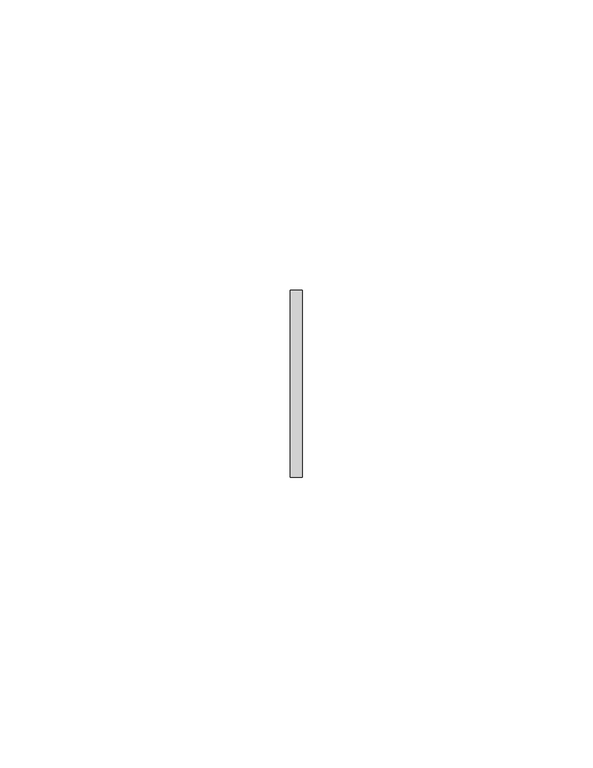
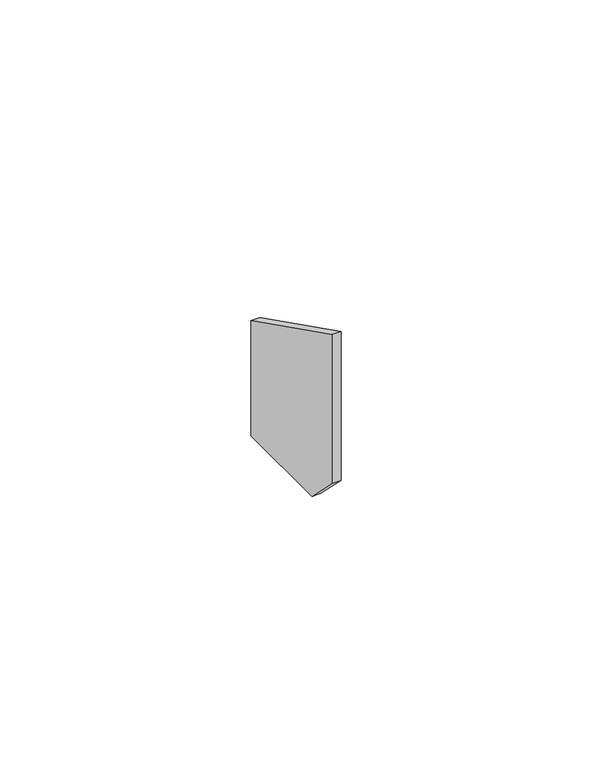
"""IFC4 building model written with IfcOpenShell, lengths in millimetres: proxy geometry, Odbojnik - OPK100R : Odbojnik - OPK100R."""

import ifcopenshell
import ifcopenshell.guid

model = None  # the IFC model being written
_history = None  # IfcOwnerHistory: only IFC2X3 demands one
_inside = {}  # id of a spatial element -> (the spatial element, [elements in it])
_under = {}  # id of a project, library or spatial element -> (it, [spatial elements below it])
_declared = {}  # id of a project -> (the project, [libraries it declares])
_typed = {}  # id of a type object -> (the type object, [elements of that type])
_made_of = {}  # id of a material, layer set ... -> (it, [elements and type objects made of it])


def new_model(schema):
    """Start an empty IFC model of exactly this schema.

    Asked for "IFC4X3", IfcOpenShell would pick the latest addendum, in which some entities
    have other attributes; the version numbers below select the first issue.
    IFC2X3 requires an IfcOwnerHistory on every rooted entity: one is made here for all.
    """
    global model, _history
    if schema == "IFC4X3":
        model = ifcopenshell.file(schema_version=(4, 3, 0, 0))
    else:
        model = ifcopenshell.file(schema=schema)
    _inside.clear()
    _under.clear()
    _declared.clear()
    _typed.clear()
    _made_of.clear()
    _history = None
    if model.schema == "IFC2X3":
        org = make("IfcOrganization", Name="unknown")
        user = make(
            "IfcPersonAndOrganization",
            ThePerson=make("IfcPerson", FamilyName="unknown"),
            TheOrganization=org,
        )
        app = make(
            "IfcApplication",
            ApplicationDeveloper=org,
            Version="unknown",
            ApplicationFullName="unknown",
            ApplicationIdentifier="unknown",
        )
        _history = make(
            "IfcOwnerHistory",
            OwningUser=user,
            OwningApplication=app,
            ChangeAction="ADDED",
            CreationDate=0,
        )
    return model


def make(cls, **values):
    """One entity of the class cls with the attributes given. An attribute that is None is left unset."""
    return model.create_entity(
        cls, **{name: value for name, value in values.items() if value is not None}
    )


def rooted(cls, **values):
    """An entity with a GlobalId (a new one), such as an element, a storey or a relation."""
    return make(cls, GlobalId=ifcopenshell.guid.new(), OwnerHistory=_history, **values)


def si_unit(unit_type, name, prefix=None):
    """IfcSIUnit, for example si_unit("LENGTHUNIT", "METRE", prefix="MILLI")."""
    return make("IfcSIUnit", UnitType=unit_type, Prefix=prefix, Name=name)


def assignment(units):
    """IfcUnitAssignment: the units of a project."""
    return None if units is None else make("IfcUnitAssignment", Units=units)


def point(xyz):
    """IfcCartesianPoint."""
    return None if xyz is None else make("IfcCartesianPoint", Coordinates=xyz)


def direction(xyz):
    """IfcDirection."""
    return None if xyz is None else make("IfcDirection", DirectionRatios=xyz)


def frame(location, z_axis=None, x_axis=None):
    """IfcAxis2Placement3D, a coordinate frame: its origin and axes. An axis left out is left unset."""
    return make(
        "IfcAxis2Placement3D",
        Location=point(location),
        Axis=direction(z_axis),
        RefDirection=direction(x_axis),
    )


def origin():
    """The frame at (0, 0, 0) with its axes left unset."""
    return frame((0.0, 0.0, 0.0))


def place(relative_to, where):
    """IfcLocalPlacement: puts the frame where relative to a parent placement (None: the world)."""
    return make(
        "IfcLocalPlacement", PlacementRelTo=relative_to, RelativePlacement=where
    )


def context(
    kind, dimensions, precision=None, world=None, true_north=None, identifier=None
):
    """IfcGeometricRepresentationContext, for example the 3D "Model" context."""
    return make(
        "IfcGeometricRepresentationContext",
        ContextIdentifier=identifier,
        ContextType=kind,
        CoordinateSpaceDimension=dimensions,
        Precision=precision,
        WorldCoordinateSystem=world,
        TrueNorth=true_north,
    )


def project(units=None, contexts=None):
    """IfcProject with its units and contexts."""
    return rooted(
        "IfcProject",
        Name="project",
        RepresentationContexts=contexts,
        UnitsInContext=assignment(units),
    )


def spatial(cls, under=None, at=None, **own):
    """A site, building, storey or space (cls), placed at a placement, below another one or the project."""
    s = rooted(cls, ObjectPlacement=at, **own)
    if under is not None:
        _under.setdefault(under.id(), (under, []))[1].append(s)
    return s


def polyline(points):
    """IfcPolyline through the points."""
    return make("IfcPolyline", Points=[point(p) for p in points])


def outline(outer, holes=None, kind="AREA"):
    """IfcArbitraryClosedProfileDef: a profile drawn as a closed curve; with holes, ...WithVoids."""
    if holes is None:
        return make("IfcArbitraryClosedProfileDef", ProfileType=kind, OuterCurve=outer)
    return make(
        "IfcArbitraryProfileDefWithVoids",
        ProfileType=kind,
        OuterCurve=outer,
        InnerCurves=holes,
    )


def extrude(swept, where, along, depth):
    """IfcExtrudedAreaSolid: the profile swept, set in the frame where, extruded along a direction by depth."""
    return make(
        "IfcExtrudedAreaSolid",
        SweptArea=swept,
        Position=where,
        ExtrudedDirection=direction(along),
        Depth=depth,
    )


def shape(context_of_items, identifier, shape_type, items):
    """IfcShapeRepresentation: the items that make up one representation, for example the "Body"."""
    return make(
        "IfcShapeRepresentation",
        ContextOfItems=context_of_items,
        RepresentationIdentifier=identifier,
        RepresentationType=shape_type,
        Items=items,
    )


def source(mapping_origin, context_of_items, identifier, shape_type, items):
    """IfcRepresentationMap: a shape defined once, which mapped items show again and again."""
    return make(
        "IfcRepresentationMap",
        MappingOrigin=mapping_origin,
        MappedRepresentation=shape(context_of_items, identifier, shape_type, items),
    )


def transform(
    local_origin,
    x_axis=None,
    y_axis=None,
    z_axis=None,
    scale=None,
    scale2=None,
    scale3=None,
    uniform=True,
):
    """IfcCartesianTransformationOperator3D, or its non-uniform kind. x_axis, y_axis, z_axis: its Axis1, 2, 3."""
    if uniform:
        return make(
            "IfcCartesianTransformationOperator3D",
            Axis1=direction(x_axis),
            Axis2=direction(y_axis),
            LocalOrigin=point(local_origin),
            Scale=scale,
            Axis3=direction(z_axis),
        )
    return make(
        "IfcCartesianTransformationOperator3DnonUniform",
        Axis1=direction(x_axis),
        Axis2=direction(y_axis),
        LocalOrigin=point(local_origin),
        Scale=scale,
        Axis3=direction(z_axis),
        Scale2=scale2,
        Scale3=scale3,
    )


def mapped(mapping_source, mapping_target):
    """IfcMappedItem: shows the shape of a source again, moved by a transform."""
    return make(
        "IfcMappedItem", MappingSource=mapping_source, MappingTarget=mapping_target
    )


def made_of(thing, what):
    """Note that an element or type object is made of a material, layer set ...; save() writes the relation."""
    if what is not None:
        _made_of.setdefault(what.id(), (what, []))[1].append(thing)
    return thing


def element(
    cls,
    number,
    at=None,
    inside=None,
    cuts=None,
    type_object=None,
    material=None,
    context=None,
    identifier="Body",
    shape_type=None,
    held_by="IfcProductDefinitionShape",
    body=None,
    shapes=None,
    **own,
):
    """One element of the class cls, such as IfcWall. Its Tag is "e" and its number.

    at: its placement. inside: the storey or other place that contains it. cuts: it is an
    opening in that element (IfcRelVoidsElement). A single representation is given by context,
    identifier, shape_type and body (its items); several are given by shapes. held_by: the class
    of the entity that holds the representations. save() writes the other relations.
    """
    e = rooted(cls, Tag="e%d" % number, ObjectPlacement=at, **own)
    if body is not None:
        shapes = [shape(context, identifier, shape_type, body)]
    if shapes is not None:
        e.Representation = make(held_by, Representations=shapes)
    if inside is not None:
        _inside.setdefault(inside.id(), (inside, []))[1].append(e)
    if cuts is not None:
        rooted(
            "IfcRelVoidsElement", RelatingBuildingElement=cuts, RelatedOpeningElement=e
        )
    if type_object is not None:
        _typed.setdefault(type_object.id(), (type_object, []))[1].append(e)
    return made_of(e, material)


def aggregate(whole, parts):
    """IfcRelAggregates: a whole, such as a stair, and the parts it consists of."""
    return rooted("IfcRelAggregates", RelatingObject=whole, RelatedObjects=parts)


def save(model, path):
    """Write the relations noted so far, then the file.

    IfcRelAggregates (storeys below a building ...), IfcRelContainedInSpatialStructure (elements
    in a storey), IfcRelDefinesByType, IfcRelAssociatesMaterial and IfcRelDeclares: one each for
    every whole, place, type object, material and project.
    """
    for whole, parts in _under.values():
        aggregate(whole, parts)
    for where, things in _inside.values():
        rooted(
            "IfcRelContainedInSpatialStructure",
            RelatedElements=things,
            RelatingStructure=where,
        )
    for kind, things in _typed.values():
        rooted("IfcRelDefinesByType", RelatedObjects=things, RelatingType=kind)
    for what, things in _made_of.values():
        rooted("IfcRelAssociatesMaterial", RelatedObjects=things, RelatingMaterial=what)
    for by, libraries in _declared.values():
        rooted("IfcRelDeclares", RelatingContext=by, RelatedDefinitions=libraries)
    model.write(path)


def generic_models_4e6019ff(model_context):
    return source(origin(), model_context, "Body", "SweptSolid", [
        extrude(outline(polyline([(-48.7713671, -7.0667242), (-48.7713671, 29.1228952), (-16.5769406, 13.0256815), (-16.5769406, -15.0667241), (-40.7713672, -15.0667241), (-48.7713671, -7.0667242)])), frame((-3.0, 0.0, 0.0), z_axis=(1.0, 0.0, 0.0), x_axis=(0.0, 1.0, 0.0)), (0.0, 0.0, 1.0), 2.0),
    ])


if __name__ == "__main__":
    model = new_model("IFC4")
    model_context = context("Model", 3, world=origin())
    ifc_project = project(units=[si_unit("LENGTHUNIT", "METRE", prefix="MILLI")], contexts=[model_context])
    site = spatial("IfcSite", under=ifc_project)
    building = spatial("IfcBuilding", under=site)
    placement = place(None, origin())
    generic_models_shape = generic_models_4e6019ff(model_context)
    element("IfcBuildingElementProxy", 1, Name="Odbojnik - OPK100R : Odbojnik - OPK100R", ObjectType="Odbojnik - OPK100R : Odbojnik - OPK100R", at=placement, inside=building, context=model_context, shape_type="MappedRepresentation", body=[
        mapped(generic_models_shape, transform((0.0, 0.0, 0.0), x_axis=(1.0, 0.0, 0.0), y_axis=(0.0, 1.0, 0.0), z_axis=(0.0, 0.0, 1.0))),
    ])
    save(model, "model.ifc")
